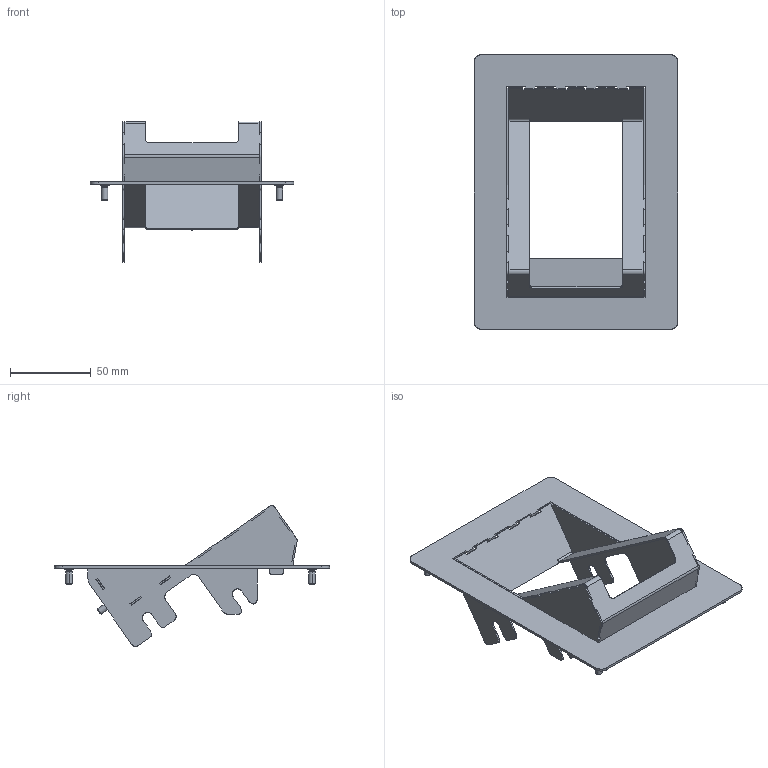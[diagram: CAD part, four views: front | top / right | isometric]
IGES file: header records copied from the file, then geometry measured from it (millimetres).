
Start section: SolidWorks IGES file using analytic representation for surfaces
Global section: file name: C:\PDF\庋.803-5-26.0.0.0.IGS,; native system: SolidWorks 2016; preprocessor: SolidWorks 2016; author: Diman; date: 210306.210852; units: millimetre
Bounding box: 126 x 169.98 x 86.97 mm (x, y, z)
Surface area: 62020.6 mm2 (no closed solid volume)
Topology: 0 solids, 0 shells, 475 faces, 3912 edges, 3902 vertices
Faces by surface type: bspline 315, revolution 160
